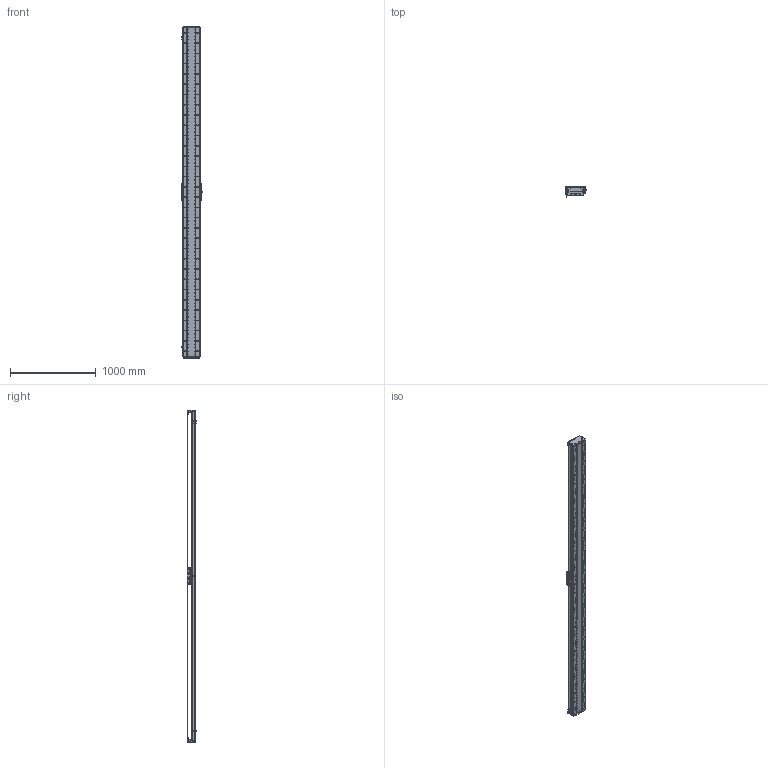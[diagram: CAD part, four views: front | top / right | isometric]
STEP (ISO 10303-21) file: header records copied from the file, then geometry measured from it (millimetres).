
FILE_DESCRIPTION (( 'STEP AP203' ), '1' );
FILE_NAME ('DA-C195-C2-T3600-C010-0.2 眻盄萇儂.STEP', '2025-08-15T01:20:47', ( '' ), ( '' ), 'SwSTEP 2.0', 'SolidWorks 2019', '' );
FILE_SCHEMA (( 'CONFIG_CONTROL_DESIGN' ));
Length unit declared in the file: millimetre
Products named in the file (15): DA165-GYP-00 光电感应片(默认); LMT黍杅芛; IU-CU195-L-00 菁釱(L3840); DA195詩湍嶺輸; MS200 棠掑喜S315-T1740; DA195詩湍裔啣; DA-C195-GD-DB-H-00 傷啣; DA95-HXJ-00 遣喳砎蝶; CU195-C2賑輸-俋楷; DA-C195-C2-T3600-C010-0.2 眻盄萇儂; DA195詩湍郪璃; DA195詩湍菜輸; 葩璃 DA95-GT-T-00; PM-T45ㄗ侂狟ㄘ; IU-CU195-L 菁釱絳寢
Assembly tree (29 placements, depth 3):
  DA-C195-C2-T3600-C010-0.2 眻盄萇儂
    DA195詩湍郪璃
      DA195詩湍菜輸  x2
      DA195詩湍裔啣
      DA195詩湍嶺輸  x2
      DA95-HXJ-00 遣喳砎蝶  x8
      DA-C195-GD-DB-H-00 傷啣  x2
    IU-CU195-L 菁釱絳寢
      IU-CU195-L-00 菁釱(L3840)
      葩璃 DA95-GT-T-00  x4
    LMT黍杅芛
    MS200 棠掑喜S315-T1740
    PM-T45ㄗ侂狟ㄘ  x3
    DA165-GYP-00 光电感应片(默认)
    CU195-C2賑輸-俋楷
Bounding box: 248 x 115.45 x 3880 mm (x, y, z)
Volume: 21393046.8 mm3; surface area: 6408946.4 mm2
Topology: 66 solids, 130 shells, 4902 faces, 14227 edges, 9031 vertices
Faces by surface type: cylinder 2863, plane 1421, cone 530, torus 52, sphere 36
Entity records: 167169 total; most frequent: CARTESIAN_POINT 48650, ORIENTED_EDGE 25338, DIRECTION 23512, EDGE_CURVE 12669, AXIS2_PLACEMENT_3D 8865, VERTEX_POINT 8233, VECTOR 5782, LINE 5782
